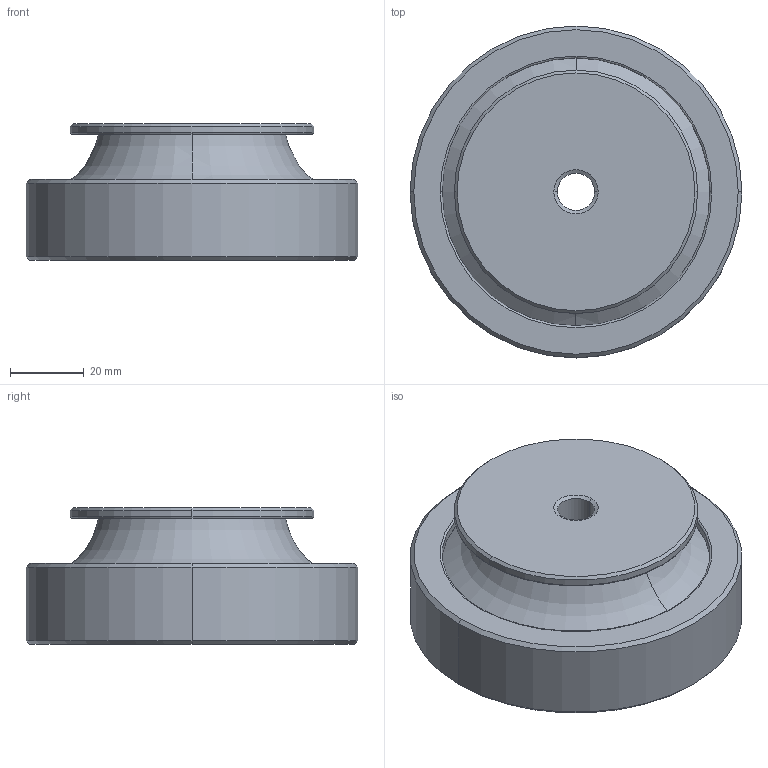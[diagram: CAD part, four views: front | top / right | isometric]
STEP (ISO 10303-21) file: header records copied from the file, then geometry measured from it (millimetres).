
FILE_DESCRIPTION(('STEP AP214'),'1');
FILE_NAME('U:/Inhalte (Daten)/Content neue Seite/CAD Files/EluFlex_90_SB.stp','2014-08-27T14:34:59',(' '),(' '),'Spatial InterOp 3D',' ',' ');
FILE_SCHEMA(('automotive_design'));
Length unit declared in the file: millimetre
Products named in the file (1): 1
Bounding box: 90 x 90 x 37 mm (x, y, z)
Volume: 146524.8 mm3; surface area: 27706.7 mm2
Topology: 1 solids, 1 shells, 44 faces, 102 edges, 64 vertices
Faces by surface type: torus 14, cylinder 12, cone 12, plane 6
Entity records: 1307 total; most frequent: DIRECTION 270, CARTESIAN_POINT 211, ORIENTED_EDGE 204, AXIS2_PLACEMENT_3D 123, EDGE_CURVE 102, CIRCLE 78, VERTEX_POINT 64, EDGE_LOOP 50
